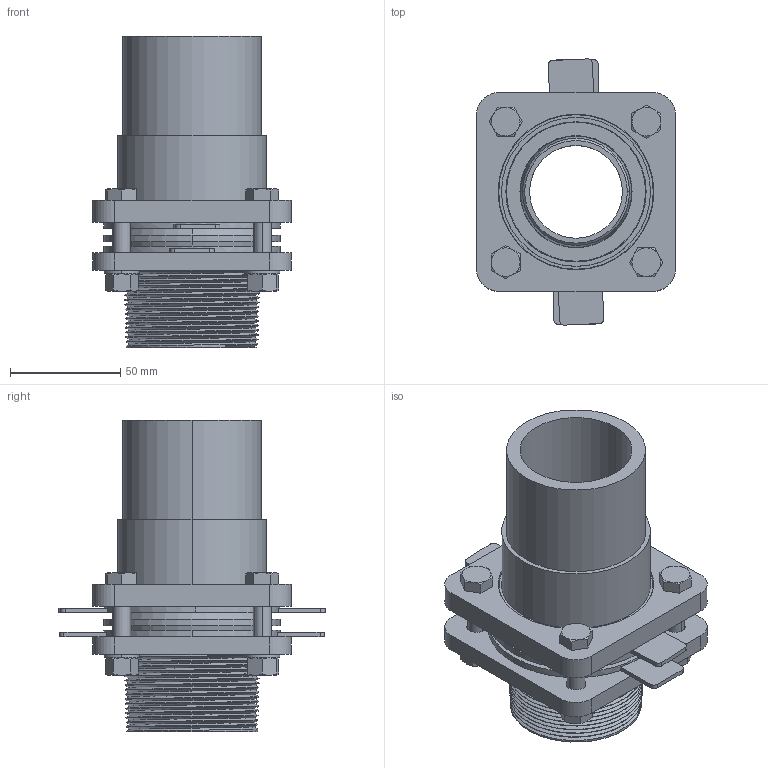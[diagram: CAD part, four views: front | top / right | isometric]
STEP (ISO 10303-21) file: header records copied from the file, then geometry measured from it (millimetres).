
FILE_DESCRIPTION (( 'STEP AP203' ), '1' );
FILE_NAME ('KP_C16-63M.step', '2011-08-08T12:00:59', ( '' ), ( '' ), 'SwSTEP 2.0', 'SolidWorks 2011', '' );
FILE_SCHEMA (( 'CONFIG_CONTROL_DESIGN' ));
Length unit declared in the file: millimetre
Products named in the file (1): KP_C16-63M
Bounding box: 90 x 120.6 x 141 mm (x, y, z)
Volume: 303939.2 mm3; surface area: 121609.2 mm2
Topology: 1 solids, 1 shells, 385 faces, 899 edges, 561 vertices
Faces by surface type: cone 133, plane 125, cylinder 106, torus 16, bspline 5
Entity records: 26032 total; most frequent: CARTESIAN_POINT 17303, ORIENTED_EDGE 1798, DIRECTION 1788, EDGE_CURVE 899, AXIS2_PLACEMENT_3D 735, VERTEX_POINT 561, EDGE_LOOP 440, ADVANCED_FACE 385
